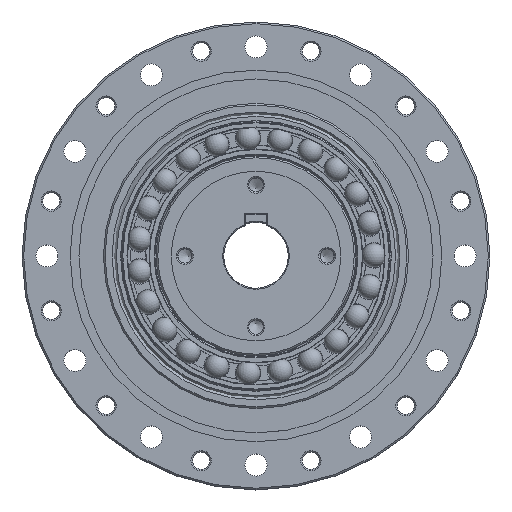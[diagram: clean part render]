
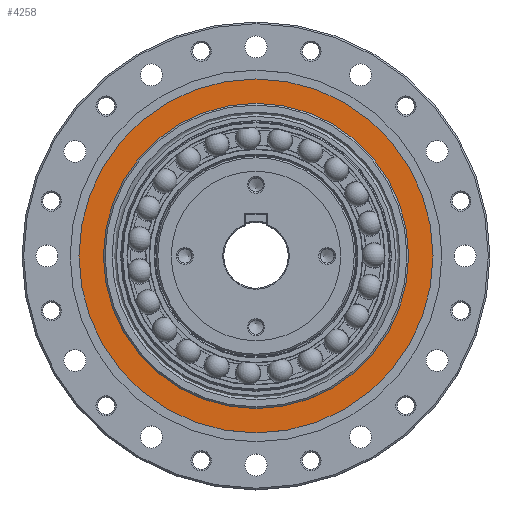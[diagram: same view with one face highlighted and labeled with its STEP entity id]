
A CAD part, top view. The second image highlights one B-rep face of the part: STEP entity #4258.
In plain terms, the highlighted planar face has unit normal (0, 0, 1) as drawn and (1, 0, 0) by its records, which use the part's own axes.
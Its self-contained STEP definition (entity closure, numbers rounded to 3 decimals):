
#1964=PLANE('',#12023);
#2652=FACE_BOUND('',#5624,.T.);
#2653=FACE_BOUND('',#5625,.T.);
#4258=ADVANCED_FACE('F14',(#2652,#2653),#1964,.T.);
#5624=EDGE_LOOP('',(#7730));
#5625=EDGE_LOOP('',(#7731));
#7730=ORIENTED_EDGE('',*,*,#9902,.T.);
#7731=ORIENTED_EDGE('',*,*,#9901,.F.);
#8813=VERTEX_POINT('',#19943);
#8814=VERTEX_POINT('',#19947);
#9901=EDGE_CURVE('',#8813,#8813,#10716,.T.);
#9902=EDGE_CURVE('',#8814,#8814,#10717,.T.);
#10716=CIRCLE('',#12020,45.);
#10717=CIRCLE('',#12022,52.2);
#12020=AXIS2_PLACEMENT_3D('',#19944,#14840,#14841);
#12022=AXIS2_PLACEMENT_3D('',#19946,#14844,#14845);
#12023=AXIS2_PLACEMENT_3D('',#19948,#14846,#14847);
#14840=DIRECTION('',(1.,0.,0.));
#14841=DIRECTION('',(0.,1.,0.));
#14844=DIRECTION('',(1.,0.,0.));
#14845=DIRECTION('',(0.,1.,0.));
#14846=DIRECTION('',(1.,0.,0.));
#14847=DIRECTION('',(0.,1.,0.));
#19943=CARTESIAN_POINT('',(37.3,45.,0.));
#19944=CARTESIAN_POINT('',(37.3,0.,0.));
#19946=CARTESIAN_POINT('',(37.3,0.,0.));
#19947=CARTESIAN_POINT('',(37.3,52.2,0.));
#19948=CARTESIAN_POINT('',(37.3,0.,0.));
